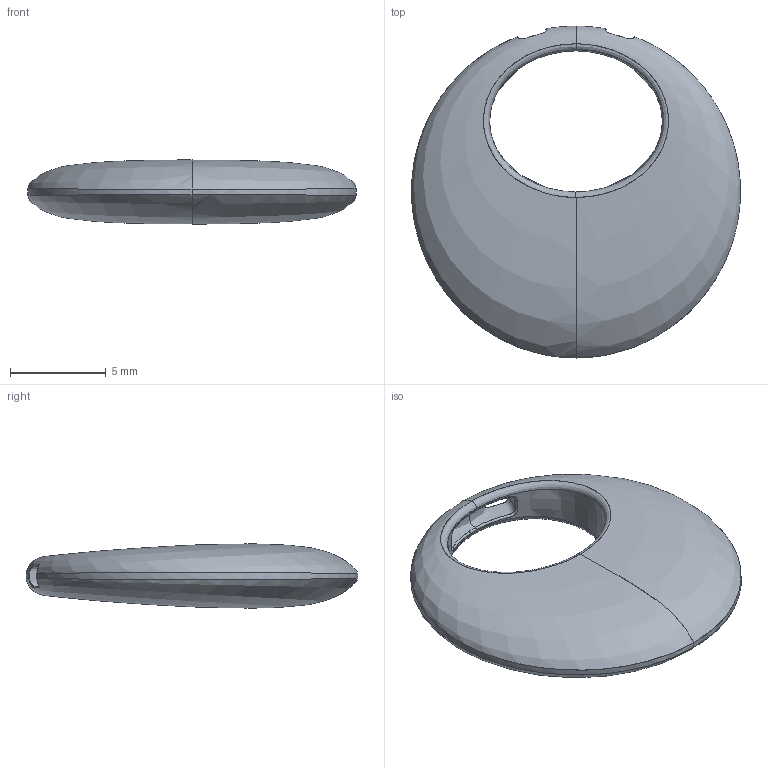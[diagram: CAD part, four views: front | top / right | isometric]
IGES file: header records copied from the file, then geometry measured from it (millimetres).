
Global section: file name: C:\Users\a\Desktop\; native system: Rhinoceros ( Aug 10 2015 ); preprocessor: Trout Lake IGES 012 Aug 10 2015; date: 210705.053156; units: millimetre
Bounding box: 17.19 x 17.36 x 3.35 mm (x, y, z)
Surface area: 496.5 mm2 (no closed solid volume)
Topology: 0 solids, 0 shells, 44 faces, 524 edges, 524 vertices
Faces by surface type: bspline 44
